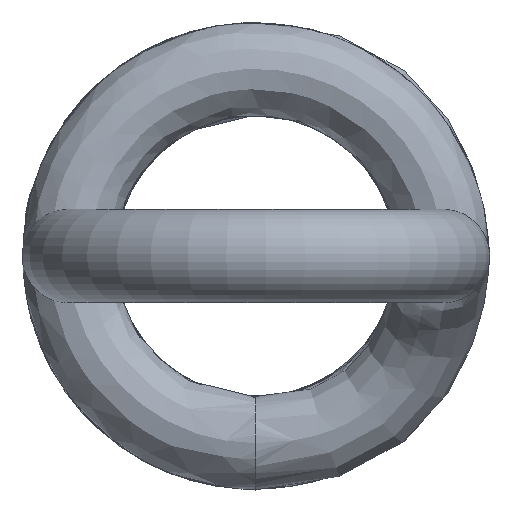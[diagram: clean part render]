
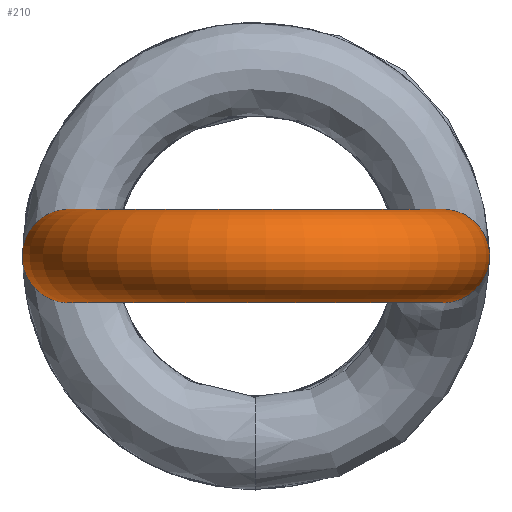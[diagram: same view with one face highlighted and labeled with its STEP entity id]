
A CAD part, front view. The second image highlights one B-rep face of the part: STEP entity #210.
In plain terms, the highlighted toroidal (fillet/blend) face has major radius 6 mm and minor radius 1.5 mm.
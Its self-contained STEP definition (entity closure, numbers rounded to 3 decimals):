
#15=TOROIDAL_SURFACE('',#248,6.,1.5);
#22=CIRCLE('',#244,1.5);
#23=CIRCLE('',#245,1.5);
#24=CIRCLE('',#247,1.5);
#25=CIRCLE('',#249,4.5);
#40=FACE_OUTER_BOUND('',#51,.T.);
#51=EDGE_LOOP('',(#150,#151,#152,#153,#154));
#87=VERTEX_POINT('',#642);
#88=VERTEX_POINT('',#653);
#91=VERTEX_POINT('',#714);
#110=EDGE_CURVE('',#88,#87,#22,.T.);
#111=EDGE_CURVE('',#87,#88,#23,.T.);
#114=EDGE_CURVE('',#91,#91,#24,.T.);
#115=EDGE_CURVE('',#91,#88,#25,.T.);
#150=ORIENTED_EDGE('',*,*,#114,.F.);
#151=ORIENTED_EDGE('',*,*,#115,.T.);
#152=ORIENTED_EDGE('',*,*,#110,.T.);
#153=ORIENTED_EDGE('',*,*,#111,.T.);
#154=ORIENTED_EDGE('',*,*,#115,.F.);
#210=ADVANCED_FACE('',(#40),#15,.T.);
#244=AXIS2_PLACEMENT_3D('',#654,#270,#271);
#245=AXIS2_PLACEMENT_3D('',#655,#272,#273);
#247=AXIS2_PLACEMENT_3D('',#715,#276,#277);
#248=AXIS2_PLACEMENT_3D('',#716,#278,#279);
#249=AXIS2_PLACEMENT_3D('',#717,#280,#281);
#270=DIRECTION('center_axis',(0.,-1.,0.));
#271=DIRECTION('ref_axis',(-0.441,0.,-0.898));
#272=DIRECTION('center_axis',(0.,-1.,0.));
#273=DIRECTION('ref_axis',(-0.441,0.,-0.898));
#276=DIRECTION('center_axis',(0.248,0.969,0.));
#277=DIRECTION('ref_axis',(0.427,-0.109,-0.898));
#278=DIRECTION('center_axis',(0.,0.,-1.));
#279=DIRECTION('ref_axis',(-0.125,-0.992,0.));
#280=DIRECTION('center_axis',(0.,0.,1.));
#281=DIRECTION('ref_axis',(-0.125,-0.992,0.));
#642=CARTESIAN_POINT('',(5.339,-50.4,-1.346));
#653=CARTESIAN_POINT('',(4.5,-50.4,0.));
#654=CARTESIAN_POINT('Origin',(6.,-50.4,0.));
#655=CARTESIAN_POINT('Origin',(6.,-50.4,0.));
#714=CARTESIAN_POINT('',(-4.359,-49.284,0.));
#715=CARTESIAN_POINT('Origin',(-5.813,-48.912,0.));
#716=CARTESIAN_POINT('Origin',(0.,-50.4,
0.));
#717=CARTESIAN_POINT('Origin',(0.,-50.4,
0.));
